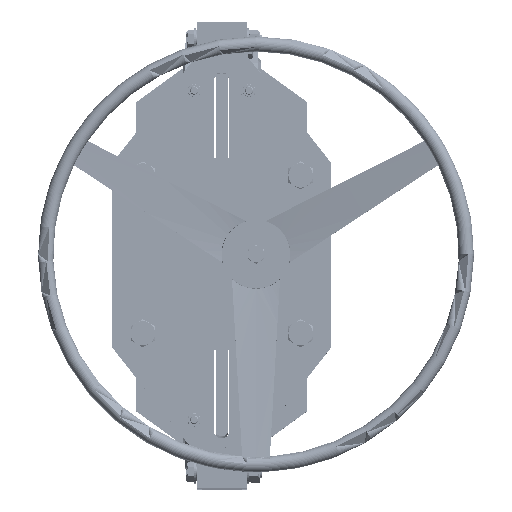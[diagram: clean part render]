
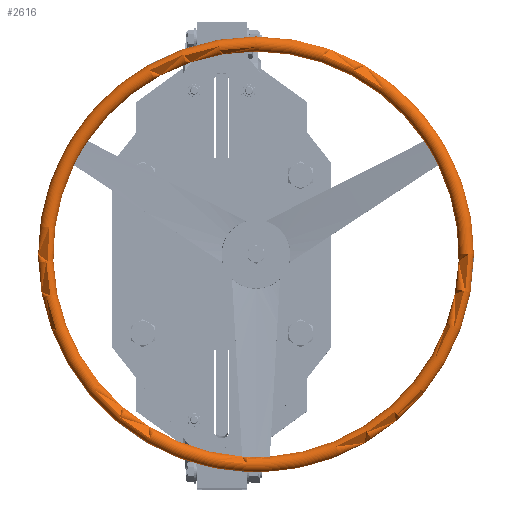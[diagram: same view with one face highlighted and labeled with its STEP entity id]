
A CAD part, top view. The second image highlights one B-rep face of the part: STEP entity #2616.
In plain terms, the highlighted toroidal (fillet/blend) face has major radius 306.5 mm and minor radius 11 mm.
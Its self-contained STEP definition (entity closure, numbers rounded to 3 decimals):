
#2616=ADVANCED_FACE('',(#9625,#9626),#9627,.T.);
#9625=FACE_BOUND('',#18735,.T.);
#9626=FACE_BOUND('',#18736,.T.);
#9627=TOROIDAL_SURFACE('',#18737,306.5,11.);
#18735=EDGE_LOOP('',(#41847,#41848,#41849,#41850,#41851,#41852,#41853,#41854,#41855,#41856,#41857,#41858,#41859,#41860));
#18736=EDGE_LOOP('',(#41861,#41862));
#18737=AXIS2_PLACEMENT_3D('',#41863,#41864,#41865);
#41847=ORIENTED_EDGE('',*,*,#62658,.F.);
#41848=ORIENTED_EDGE('',*,*,#57054,.F.);
#41849=ORIENTED_EDGE('',*,*,#61772,.F.);
#41850=ORIENTED_EDGE('',*,*,#62662,.F.);
#41851=ORIENTED_EDGE('',*,*,#62663,.F.);
#41852=ORIENTED_EDGE('',*,*,#62664,.F.);
#41853=ORIENTED_EDGE('',*,*,#62665,.F.);
#41854=ORIENTED_EDGE('',*,*,#61769,.F.);
#41855=ORIENTED_EDGE('',*,*,#62666,.F.);
#41856=ORIENTED_EDGE('',*,*,#55135,.F.);
#41857=ORIENTED_EDGE('',*,*,#62667,.F.);
#41858=ORIENTED_EDGE('',*,*,#61764,.F.);
#41859=ORIENTED_EDGE('',*,*,#62668,.F.);
#41860=ORIENTED_EDGE('',*,*,#62669,.F.);
#41861=ORIENTED_EDGE('',*,*,#59964,.F.);
#41862=ORIENTED_EDGE('',*,*,#57805,.F.);
#41863=CARTESIAN_POINT('',(50.,0.,1250.5));
#41864=DIRECTION('',(0.,0.,-1.));
#41865=DIRECTION('',(0.,-1.,0.));
#55135=EDGE_CURVE('',#66700,#66696,#66702,.T.);
#57054=EDGE_CURVE('',#70481,#70483,#70484,.T.);
#57805=EDGE_CURVE('',#71949,#71951,#71952,.T.);
#59964=EDGE_CURVE('',#71951,#71949,#75520,.T.);
#61764=EDGE_CURVE('',#78142,#78140,#78144,.T.);
#61769=EDGE_CURVE('',#78151,#78146,#78153,.T.);
#61772=EDGE_CURVE('',#78156,#70481,#78158,.T.);
#62658=EDGE_CURVE('',#70483,#79362,#79363,.T.);
#62662=EDGE_CURVE('',#79368,#78156,#79369,.T.);
#62663=EDGE_CURVE('',#79370,#79368,#79371,.T.);
#62664=EDGE_CURVE('',#79372,#79370,#79373,.T.);
#62665=EDGE_CURVE('',#78146,#79372,#79374,.T.);
#62666=EDGE_CURVE('',#66696,#78151,#79375,.T.);
#62667=EDGE_CURVE('',#78140,#66700,#79376,.T.);
#62668=EDGE_CURVE('',#79377,#78142,#79378,.T.);
#62669=EDGE_CURVE('',#79362,#79377,#79379,.T.);
#66696=VERTEX_POINT('',#83039);
#66700=VERTEX_POINT('',#83044);
#66702=CIRCLE('',#83061,295.53);
#70481=VERTEX_POINT('',#88913);
#70483=VERTEX_POINT('',#88916);
#70484=CIRCLE('',#88917,295.5);
#71949=VERTEX_POINT('',#91241);
#71951=VERTEX_POINT('',#91244);
#71952=CIRCLE('',#91245,317.5);
#75520=CIRCLE('',#98876,317.5);
#78140=VERTEX_POINT('',#105278);
#78142=VERTEX_POINT('',#105281);
#78144=CIRCLE('',#105284,295.5);
#78146=VERTEX_POINT('',#105286);
#78151=VERTEX_POINT('',#105298);
#78153=B_SPLINE_CURVE_WITH_KNOTS('',3,(#105315,#105316,#105317,#105318),.UNSPECIFIED.,.F.,.F.,(4,4),(0.,0.001),.UNSPECIFIED.);
#78156=VERTEX_POINT('',#105321);
#78158=CIRCLE('',#105324,295.5);
#79362=VERTEX_POINT('',#108329);
#79363=B_SPLINE_CURVE_WITH_KNOTS('',3,(#108330,#108331,#108332,#108333),.UNSPECIFIED.,.F.,.F.,(4,4),(0.,0.001),.UNSPECIFIED.);
#79368=VERTEX_POINT('',#108371);
#79369=B_SPLINE_CURVE_WITH_KNOTS('',3,(#108372,#108373,#108374,#108375),.UNSPECIFIED.,.F.,.F.,(4,4),(0.,0.001),.UNSPECIFIED.);
#79370=VERTEX_POINT('',#108376);
#79371=CIRCLE('',#108377,295.53);
#79372=VERTEX_POINT('',#108378);
#79373=B_SPLINE_CURVE_WITH_KNOTS('',3,(#108379,#108380,#108381,#108382),.UNSPECIFIED.,.F.,.F.,(4,4),(0.,0.001),.UNSPECIFIED.);
#79374=CIRCLE('',#108383,295.5);
#79375=CIRCLE('',#108384,295.53);
#79376=B_SPLINE_CURVE_WITH_KNOTS('',3,(#108385,#108386,#108387,#108388),.UNSPECIFIED.,.F.,.F.,(4,4),(0.,0.001),.UNSPECIFIED.);
#79377=VERTEX_POINT('',#108389);
#79378=B_SPLINE_CURVE_WITH_KNOTS('',3,(#108390,#108391,#108392,#108393),.UNSPECIFIED.,.F.,.F.,(4,4),(0.,0.001),.UNSPECIFIED.);
#79379=CIRCLE('',#108394,295.53);
#83039=CARTESIAN_POINT('',(50.,-295.53,1251.314));
#83044=CARTESIAN_POINT('',(29.744,-294.835,1251.314));
#83061=AXIS2_PLACEMENT_3D('',#114865,#114866,#114867);
#88913=CARTESIAN_POINT('',(50.,295.5,1250.5));
#88916=CARTESIAN_POINT('',(-195.18,164.946,1250.5));
#88917=AXIS2_PLACEMENT_3D('',#118407,#118408,#118409);
#91241=CARTESIAN_POINT('',(50.,317.5,1250.5));
#91244=CARTESIAN_POINT('',(50.,-317.5,1250.5));
#91245=AXIS2_PLACEMENT_3D('',#119748,#119749,#119750);
#98876=AXIS2_PLACEMENT_3D('',#123085,#123086,#123087);
#105278=CARTESIAN_POINT('',(29.742,-294.805,1250.5));
#105281=CARTESIAN_POINT('',(-215.437,129.859,1250.5));
#105284=AXIS2_PLACEMENT_3D('',#125773,#125774,#125775);
#105286=CARTESIAN_POINT('',(70.258,-294.805,1250.5));
#105298=CARTESIAN_POINT('',(70.256,-294.835,1251.314));
#105315=CARTESIAN_POINT('',(70.256,-294.835,1251.314));
#105316=CARTESIAN_POINT('',(70.257,-294.815,1251.043));
#105317=CARTESIAN_POINT('',(70.258,-294.805,1250.772));
#105318=CARTESIAN_POINT('',(70.258,-294.805,1250.5));
#105321=CARTESIAN_POINT('',(295.18,164.946,1250.5));
#105324=AXIS2_PLACEMENT_3D('',#125781,#125782,#125783);
#108329=CARTESIAN_POINT('',(-195.207,164.96,1251.314));
#108330=CARTESIAN_POINT('',(-195.18,164.946,1250.5));
#108331=CARTESIAN_POINT('',(-195.18,164.946,1250.772));
#108332=CARTESIAN_POINT('',(-195.189,164.951,1251.043));
#108333=CARTESIAN_POINT('',(-195.207,164.96,1251.314));
#108371=CARTESIAN_POINT('',(295.207,164.96,1251.314));
#108372=CARTESIAN_POINT('',(295.207,164.96,1251.314));
#108373=CARTESIAN_POINT('',(295.189,164.951,1251.043));
#108374=CARTESIAN_POINT('',(295.18,164.946,1250.772));
#108375=CARTESIAN_POINT('',(295.18,164.946,1250.5));
#108376=CARTESIAN_POINT('',(315.463,129.875,1251.314));
#108377=AXIS2_PLACEMENT_3D('',#127130,#127131,#127132);
#108378=CARTESIAN_POINT('',(315.437,129.859,1250.5));
#108379=CARTESIAN_POINT('',(315.437,129.859,1250.5));
#108380=CARTESIAN_POINT('',(315.437,129.859,1250.772));
#108381=CARTESIAN_POINT('',(315.446,129.864,1251.043));
#108382=CARTESIAN_POINT('',(315.463,129.875,1251.314));
#108383=AXIS2_PLACEMENT_3D('',#127133,#127134,#127135);
#108384=AXIS2_PLACEMENT_3D('',#127136,#127137,#127138);
#108385=CARTESIAN_POINT('',(29.742,-294.805,1250.5));
#108386=CARTESIAN_POINT('',(29.742,-294.805,1250.772));
#108387=CARTESIAN_POINT('',(29.743,-294.815,1251.043));
#108388=CARTESIAN_POINT('',(29.744,-294.835,1251.314));
#108389=CARTESIAN_POINT('',(-215.463,129.875,1251.314));
#108390=CARTESIAN_POINT('',(-215.463,129.875,1251.314));
#108391=CARTESIAN_POINT('',(-215.446,129.864,1251.043));
#108392=CARTESIAN_POINT('',(-215.437,129.859,1250.772));
#108393=CARTESIAN_POINT('',(-215.437,129.859,1250.5));
#108394=AXIS2_PLACEMENT_3D('',#127139,#127140,#127141);
#114865=CARTESIAN_POINT('',(50.,0.,1251.314));
#114866=DIRECTION('',(0.,0.,1.));
#114867=DIRECTION('',(0.,-1.,0.));
#118407=CARTESIAN_POINT('',(50.,0.,1250.5));
#118408=DIRECTION('',(0.,0.,1.));
#118409=DIRECTION('',(0.,-1.,0.));
#119748=CARTESIAN_POINT('',(50.,0.,1250.5));
#119749=DIRECTION('',(0.,0.,-1.));
#119750=DIRECTION('',(0.,-1.,0.));
#123085=CARTESIAN_POINT('',(50.,0.,1250.5));
#123086=DIRECTION('',(0.,0.,-1.));
#123087=DIRECTION('',(0.,-1.,0.));
#125773=CARTESIAN_POINT('',(50.,0.,1250.5));
#125774=DIRECTION('',(0.,0.,1.));
#125775=DIRECTION('',(0.,-1.,0.));
#125781=CARTESIAN_POINT('',(50.,0.,1250.5));
#125782=DIRECTION('',(0.,0.,1.));
#125783=DIRECTION('',(0.,-1.,0.));
#127130=CARTESIAN_POINT('',(50.,0.,1251.314));
#127131=DIRECTION('',(0.,0.,1.));
#127132=DIRECTION('',(0.,-1.,0.));
#127133=CARTESIAN_POINT('',(50.,0.,1250.5));
#127134=DIRECTION('',(0.,0.,1.));
#127135=DIRECTION('',(0.,-1.,0.));
#127136=CARTESIAN_POINT('',(50.,0.,1251.314));
#127137=DIRECTION('',(0.,0.,1.));
#127138=DIRECTION('',(0.,-1.,0.));
#127139=CARTESIAN_POINT('',(50.,0.,1251.314));
#127140=DIRECTION('',(0.,0.,1.));
#127141=DIRECTION('',(0.,-1.,0.));
